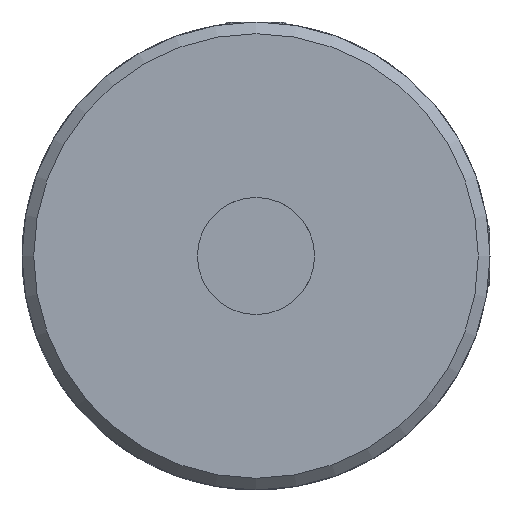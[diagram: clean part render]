
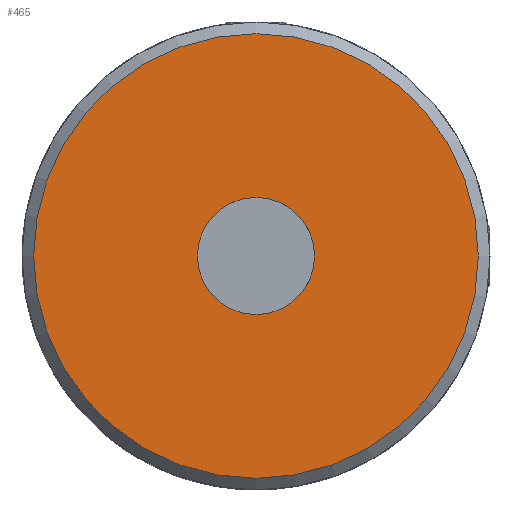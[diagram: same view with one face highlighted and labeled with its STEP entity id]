
A CAD part, left-side view. The second image highlights one B-rep face of the part: STEP entity #465.
In plain terms, the highlighted planar face has unit normal (-1, 0, 0).
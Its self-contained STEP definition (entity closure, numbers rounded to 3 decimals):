
#465 = ADVANCED_FACE( '', ( #971, #972 ), #973, .T. );
#971 = FACE_OUTER_BOUND( '', #1488, .T. );
#972 = FACE_BOUND( '', #1489, .T. );
#973 = PLANE( '', #1490 );
#1488 = EDGE_LOOP( '', ( #2757 ) );
#1489 = EDGE_LOOP( '', ( #2758 ) );
#1490 = AXIS2_PLACEMENT_3D( '', #2759, #2760, #2761 );
#2757 = ORIENTED_EDGE( '', *, *, #3366, .T. );
#2758 = ORIENTED_EDGE( '', *, *, #2905, .T. );
#2759 = CARTESIAN_POINT( '', ( -11., 0., 3. ) );
#2760 = DIRECTION( '', ( -1., 0., 0. ) );
#2761 = DIRECTION( '', ( 0., 0., 1. ) );
#2905 = EDGE_CURVE( '', #3442, #3442, #3443, .T. );
#3366 = EDGE_CURVE( '', #4095, #4095, #4096, .T. );
#3442 = VERTEX_POINT( '', #4207 );
#3443 = CIRCLE( '', #4208, 2.5 );
#4095 = VERTEX_POINT( '', #5376 );
#4096 = CIRCLE( '', #5377, 9.5 );
#4207 = CARTESIAN_POINT( '', ( -11., -2.5, 0. ) );
#4208 = AXIS2_PLACEMENT_3D( '', #5439, #5440, #5441 );
#5376 = CARTESIAN_POINT( '', ( -11., 0., 9.5 ) );
#5377 = AXIS2_PLACEMENT_3D( '', #6035, #6036, #6037 );
#5439 = CARTESIAN_POINT( '', ( -11., 0., 0. ) );
#5440 = DIRECTION( '', ( 1., 0., 0. ) );
#5441 = DIRECTION( '', ( 0., -1., 0. ) );
#6035 = CARTESIAN_POINT( '', ( -11., 0., 0. ) );
#6036 = DIRECTION( '', ( -1., 0., 0. ) );
#6037 = DIRECTION( '', ( 0., 0., 1. ) );
